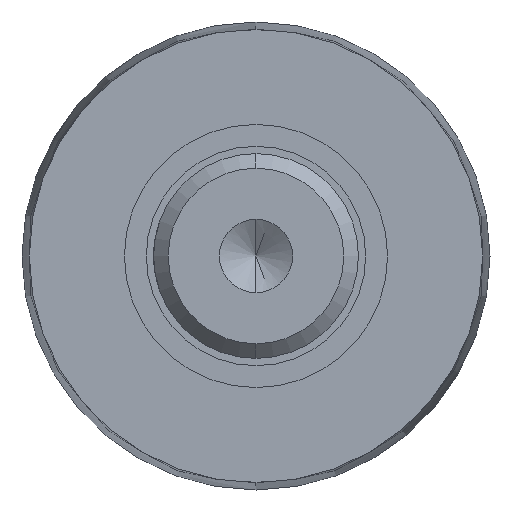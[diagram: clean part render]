
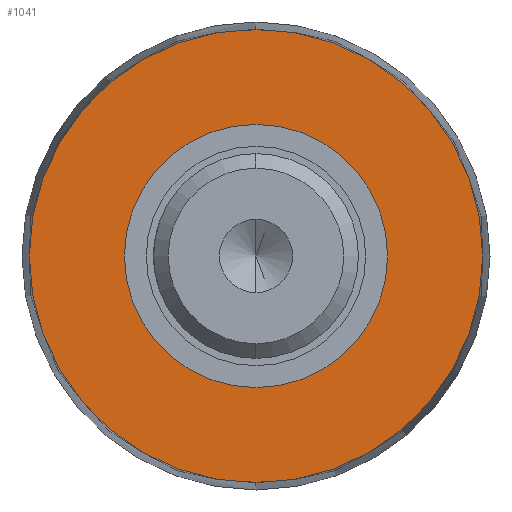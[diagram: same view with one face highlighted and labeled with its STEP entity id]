
A CAD part, left-side view. The second image highlights one B-rep face of the part: STEP entity #1041.
In plain terms, the highlighted planar face has unit normal (-1, 0, 0).
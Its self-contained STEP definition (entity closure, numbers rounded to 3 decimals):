
#103 = EDGE_CURVE ( 'NONE', #898, #298, #152, .T. ) ;
#111 = CIRCLE ( 'NONE', #1157, 9. ) ;
#152 = CIRCLE ( 'NONE', #1083, 9. ) ;
#179 = DIRECTION ( 'NONE',  ( -1., 0., 0. ) ) ;
#191 = VERTEX_POINT ( 'NONE', #494 ) ;
#242 = AXIS2_PLACEMENT_3D ( 'NONE', #350, #745, #357 ) ;
#265 = ORIENTED_EDGE ( 'NONE', *, *, #103, .T. ) ;
#269 = EDGE_CURVE ( 'NONE', #191, #897, #1225, .T. ) ;
#278 = DIRECTION ( 'NONE',  ( 0., 0., -1. ) ) ;
#284 = DIRECTION ( 'NONE',  ( 1., 0., 0. ) ) ;
#295 = EDGE_CURVE ( 'NONE', #897, #191, #1251, .T. ) ;
#298 = VERTEX_POINT ( 'NONE', #459 ) ;
#350 = CARTESIAN_POINT ( 'NONE',  ( 98.5, 16., 0. ) ) ;
#357 = DIRECTION ( 'NONE',  ( 0., 0., 1. ) ) ;
#411 = EDGE_LOOP ( 'NONE', ( #265, #1126 ) ) ;
#459 = CARTESIAN_POINT ( 'NONE',  ( 98.5, 0., 9. ) ) ;
#494 = CARTESIAN_POINT ( 'NONE',  ( 98.5, 0., -15.5 ) ) ;
#580 = CARTESIAN_POINT ( 'NONE',  ( 98.5, 0., 0. ) ) ;
#626 = CARTESIAN_POINT ( 'NONE',  ( 98.5, 0., 0. ) ) ;
#662 = AXIS2_PLACEMENT_3D ( 'NONE', #580, #1107, #1300 ) ;
#726 = CARTESIAN_POINT ( 'NONE',  ( 98.5, 0., 15.5 ) ) ;
#745 = DIRECTION ( 'NONE',  ( -1., 0., 0. ) ) ;
#774 = CARTESIAN_POINT ( 'NONE',  ( 98.5, 0., 0. ) ) ;
#842 = FACE_BOUND ( 'NONE', #411, .T. ) ;
#845 = CARTESIAN_POINT ( 'NONE',  ( 98.5, 0., -9. ) ) ;
#890 = ORIENTED_EDGE ( 'NONE', *, *, #295, .T. ) ;
#897 = VERTEX_POINT ( 'NONE', #726 ) ;
#898 = VERTEX_POINT ( 'NONE', #845 ) ;
#1002 = DIRECTION ( 'NONE',  ( 0., 0., 1. ) ) ;
#1041 = ADVANCED_FACE ( 'NONE', ( #842, #1301 ), #1185, .T. ) ;
#1083 = AXIS2_PLACEMENT_3D ( 'NONE', #626, #1270, #1159 ) ;
#1107 = DIRECTION ( 'NONE',  ( -1., 0., 0. ) ) ;
#1126 = ORIENTED_EDGE ( 'NONE', *, *, #1189, .T. ) ;
#1149 = EDGE_LOOP ( 'NONE', ( #1206, #890 ) ) ;
#1157 = AXIS2_PLACEMENT_3D ( 'NONE', #774, #284, #278 ) ;
#1159 = DIRECTION ( 'NONE',  ( 0., 0., -1. ) ) ;
#1185 = PLANE ( 'NONE',  #242 ) ;
#1189 = EDGE_CURVE ( 'NONE', #298, #898, #111, .T. ) ;
#1206 = ORIENTED_EDGE ( 'NONE', *, *, #269, .T. ) ;
#1210 = AXIS2_PLACEMENT_3D ( 'NONE', #1312, #179, #1002 ) ;
#1225 = CIRCLE ( 'NONE', #662, 15.5 ) ;
#1251 = CIRCLE ( 'NONE', #1210, 15.5 ) ;
#1270 = DIRECTION ( 'NONE',  ( 1., 0., 0. ) ) ;
#1300 = DIRECTION ( 'NONE',  ( 0., 0., 1. ) ) ;
#1301 = FACE_OUTER_BOUND ( 'NONE', #1149, .T. ) ;
#1312 = CARTESIAN_POINT ( 'NONE',  ( 98.5, 0., 0. ) ) ;
